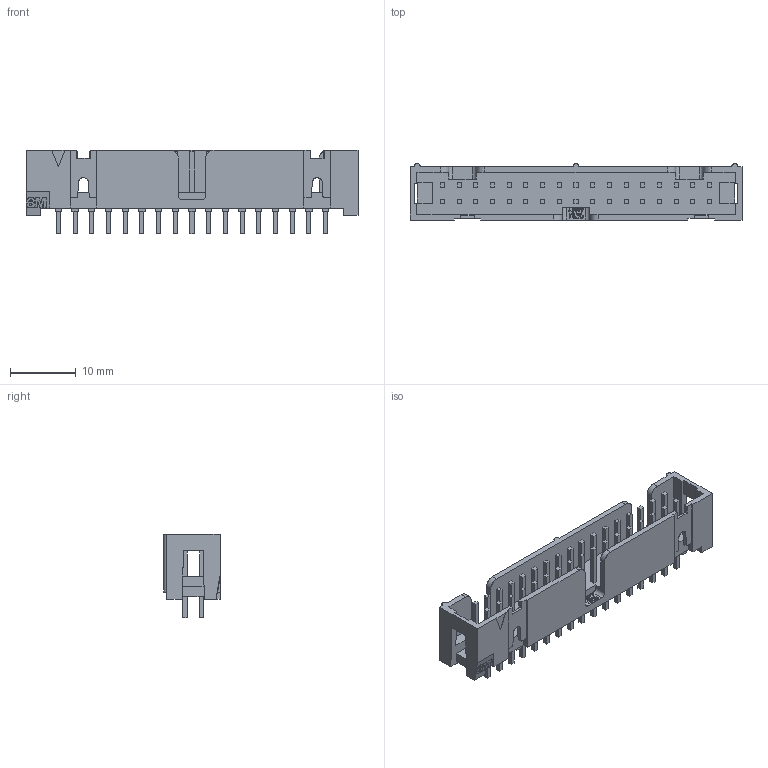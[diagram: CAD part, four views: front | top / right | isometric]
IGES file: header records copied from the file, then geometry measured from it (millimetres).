
Global section: file name: Q:\us297865\12936-columbia-vietnam-transfer\2500-series-4-wall-lo-pro-header\eco-99225-for-web-models\2534-6002.igs; native system: NX V12.0; preprocessor: SIEMENS PLM Software NX 12.0; date: 20211001.094252; units: inch
Bounding box: 50.5 x 8.64 x 12.75 mm (x, y, z)
Surface area: 3424.8 mm2 (no closed solid volume)
Topology: 0 solids, 0 shells, 684 faces, 3635 edges, 3635 vertices
Faces by surface type: bspline 684
